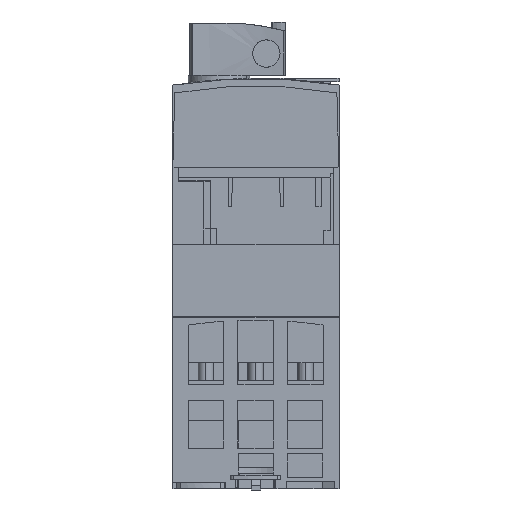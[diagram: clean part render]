
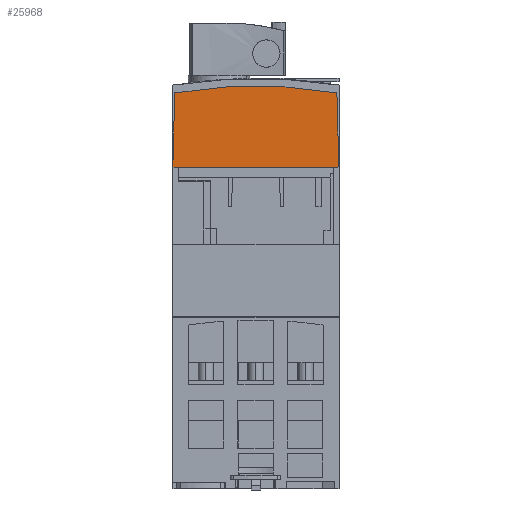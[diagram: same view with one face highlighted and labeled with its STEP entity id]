
A CAD part, front view. The second image highlights one B-rep face of the part: STEP entity #25968.
In plain terms, the highlighted planar face has unit normal (0, -1, 0).
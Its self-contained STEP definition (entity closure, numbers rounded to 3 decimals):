
#350=DIRECTION('',(0.,0.,-1.));
#351=VECTOR('',#350,1.891);
#352=CARTESIAN_POINT('',(0.,107.768,89.382));
#353=LINE('',#352,#351);
#8788=CARTESIAN_POINT('',(22.45,107.768,-18.527));
#8789=DIRECTION('',(0.,-1.,0.));
#8790=DIRECTION('',(0.172,0.,0.985));
#8791=AXIS2_PLACEMENT_3D('',#8788,#8789,#8790);
#8796=DIRECTION('',(-1.,0.,0.));
#8797=VECTOR('',#8796,44.95);
#8798=CARTESIAN_POINT('',(44.95,107.768,87.482));
#8799=LINE('',#8798,#8797);
#8810=DIRECTION('',(-0.026,0.,-1.));
#8811=VECTOR('',#8810,18.197);
#8812=CARTESIAN_POINT('',(0.476,107.768,107.573));
#8813=LINE('',#8812,#8811);
#8817=DIRECTION('',(-0.026,0.,1.));
#8818=VECTOR('',#8817,20.098);
#8819=CARTESIAN_POINT('',(44.95,107.768,87.482));
#8820=LINE('',#8819,#8818);
#16182=CARTESIAN_POINT('',(0.,107.768,87.491));
#16184=VERTEX_POINT('',#16182);
#16667=CARTESIAN_POINT('',(0.,107.768,89.382));
#16668=VERTEX_POINT('',#16667);
#16669=CARTESIAN_POINT('',(44.95,107.768,87.482));
#16670=VERTEX_POINT('',#16669);
#17060=CARTESIAN_POINT('',(44.424,107.768,107.573));
#17061=CARTESIAN_POINT('',(0.476,107.768,
107.573));
#17062=VERTEX_POINT('',#17060);
#17063=VERTEX_POINT('',#17061);
#25953=CARTESIAN_POINT('',(45.,107.768,87.5));
#25954=DIRECTION('',(0.,1.,0.));
#25955=DIRECTION('',(0.,0.,1.));
#25956=AXIS2_PLACEMENT_3D('',#25953,#25954,#25955);
#25957=PLANE('',#25956);
#25959=ORIENTED_EDGE('',*,*,#25958,.F.);
#25961=ORIENTED_EDGE('',*,*,#25960,.F.);
#25963=ORIENTED_EDGE('',*,*,#25962,.F.);
#25964=ORIENTED_EDGE('',*,*,#22788,.T.);
#25965=ORIENTED_EDGE('',*,*,#17444,.F.);
#25966=EDGE_LOOP('',(#25959,#25961,#25963,#25964,#25965));
#25967=FACE_OUTER_BOUND('',#25966,.F.);
#8792=CIRCLE('',#8791,128.);
#17444=EDGE_CURVE('',#16668,#16184,#353,.T.);
#22788=EDGE_CURVE('',#16670,#16184,#8799,.T.);
#25958=EDGE_CURVE('',#17063,#16668,#8813,.T.);
#25960=EDGE_CURVE('',#17062,#17063,#8792,.T.);
#25962=EDGE_CURVE('',#16670,#17062,#8820,.T.);
#25968=ADVANCED_FACE('',(#25967),#25957,.F.);
